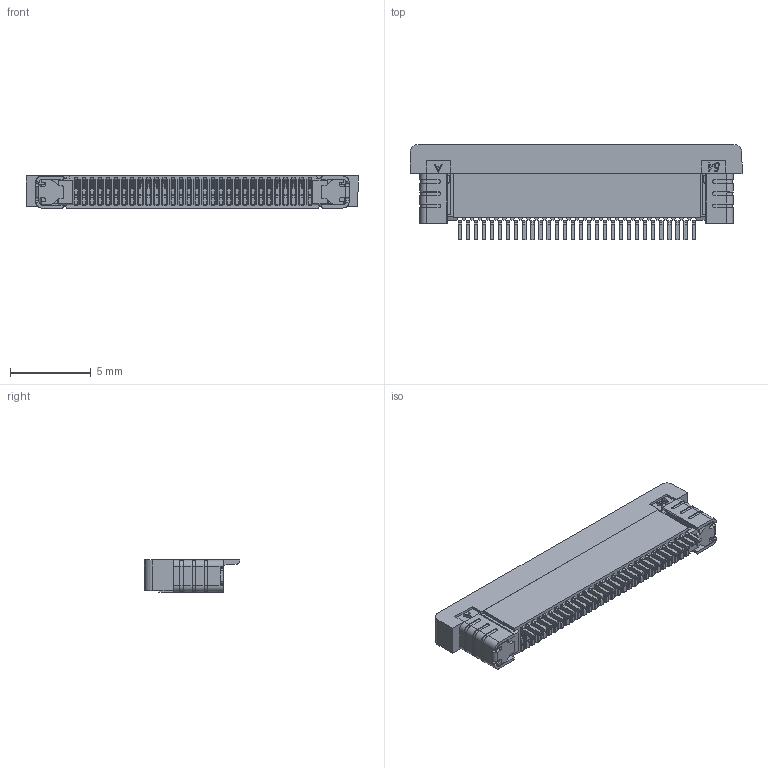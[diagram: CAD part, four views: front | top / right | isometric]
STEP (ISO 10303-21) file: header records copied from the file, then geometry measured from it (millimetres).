
FILE_DESCRIPTION (( 'STEP AP214' ), '1' );
FILE_NAME ('2345-C54TD1T.STEP', '2017-07-07T08:33:40', ( '' ), ( '' ), 'SwSTEP 2.0', 'SolidWorks 2015', '' );
FILE_SCHEMA (( 'AUTOMOTIVE_DESIGN' ));
Length unit declared in the file: millimetre
Products named in the file (39): 錨璃9; 2345-20Y; 錨璃3; 2345-20B; 2345-C54TD1T
Assembly tree (34 placements, depth 2):
  錨璃9
  2345-20Y
  錨璃3
  錨璃9
  錨璃9
Bounding box: 20.6 x 5.9 x 2 mm (x, y, z)
Volume: 139.9 mm3; surface area: 656.7 mm2
Topology: 95 solids, 95 shells, 1981 faces, 5274 edges, 3518 vertices
Faces by surface type: plane 1270, cylinder 549, bspline 162
Entity records: 16469 total; most frequent: CARTESIAN_POINT 4155, ORIENTED_EDGE 2538, DIRECTION 2136, EDGE_CURVE 1269, LINE 1034, VECTOR 1034, VERTEX_POINT 846, AXIS2_PLACEMENT_3D 551
